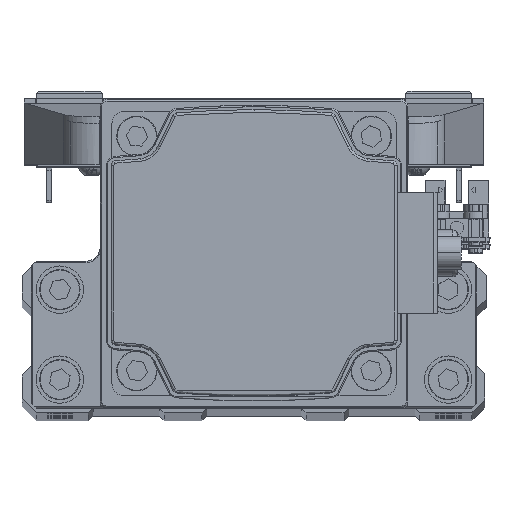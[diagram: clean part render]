
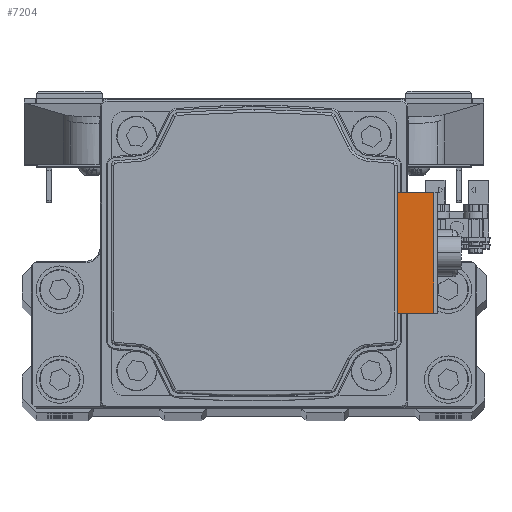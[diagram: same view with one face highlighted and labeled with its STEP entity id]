
A CAD part, top view. The second image highlights one B-rep face of the part: STEP entity #7204.
In plain terms, the highlighted planar face has unit normal (0, 0, 1) as drawn and (0, 0, -1) by its records, which use the part's own axes.
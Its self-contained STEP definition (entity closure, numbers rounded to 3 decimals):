
#261 = CARTESIAN_POINT ( 'NONE',  ( 18.438, 30.2, -88.696 ) ) ;
#2925 = CARTESIAN_POINT ( 'NONE',  ( 12.75, 33.991, -88.696 ) ) ;
#4700 = VERTEX_POINT ( 'NONE', #32684 ) ;
#5823 = EDGE_CURVE ( 'NONE', #13220, #4700, #45860, .T. ) ;
#5963 = DIRECTION ( 'NONE',  ( 0., 1., 0. ) ) ;
#6805 = DIRECTION ( 'NONE',  ( -1., 0., 0. ) ) ;
#7204 = ADVANCED_FACE ( 'NONE', ( #43048 ), #10393, .T. ) ;
#10393 = PLANE ( 'NONE',  #34673 ) ;
#10651 = VECTOR ( 'NONE', #17456, 1000. ) ;
#10963 = ORIENTED_EDGE ( 'NONE', *, *, #5823, .T. ) ;
#11556 = ORIENTED_EDGE ( 'NONE', *, *, #27826, .T. ) ;
#13156 = VERTEX_POINT ( 'NONE', #35215 ) ;
#13198 = CARTESIAN_POINT ( 'NONE',  ( 0., 37.9, -88.696 ) ) ;
#13220 = VERTEX_POINT ( 'NONE', #24727 ) ;
#14543 = VECTOR ( 'NONE', #5963, 1000. ) ;
#14805 = DIRECTION ( 'NONE',  ( 1., 0., 0. ) ) ;
#17456 = DIRECTION ( 'NONE',  ( 0., 1., 0. ) ) ;
#21330 = VECTOR ( 'NONE', #14805, 1000. ) ;
#24094 = LINE ( 'NONE', #38630, #14543 ) ;
#24727 = CARTESIAN_POINT ( 'NONE',  ( -12.75, 37.9, -88.696 ) ) ;
#24921 = CARTESIAN_POINT ( 'NONE',  ( 0., 37.9, -88.696 ) ) ;
#27746 = DIRECTION ( 'NONE',  ( 1., 0., 0. ) ) ;
#27826 = EDGE_CURVE ( 'NONE', #13156, #13220, #24094, .T. ) ;
#28210 = CARTESIAN_POINT ( 'NONE',  ( 12.75, 30.2, -88.696 ) ) ;
#32684 = CARTESIAN_POINT ( 'NONE',  ( 12.75, 37.9, -88.696 ) ) ;
#32906 = LINE ( 'NONE', #261, #21330 ) ;
#34673 = AXIS2_PLACEMENT_3D ( 'NONE', #24921, #39464, #6805 ) ;
#35215 = CARTESIAN_POINT ( 'NONE',  ( -12.75, 30.2, -88.696 ) ) ;
#35581 = LINE ( 'NONE', #2925, #10651 ) ;
#35635 = ORIENTED_EDGE ( 'NONE', *, *, #46665, .F. ) ;
#35840 = ORIENTED_EDGE ( 'NONE', *, *, #42107, .F. ) ;
#38630 = CARTESIAN_POINT ( 'NONE',  ( -12.75, 37.9, -88.696 ) ) ;
#38956 = EDGE_LOOP ( 'NONE', ( #11556, #10963, #35840, #35635 ) ) ;
#39464 = DIRECTION ( 'NONE',  ( 0., 0., -1. ) ) ;
#42107 = EDGE_CURVE ( 'NONE', #44808, #4700, #35581, .T. ) ;
#43048 = FACE_OUTER_BOUND ( 'NONE', #38956, .T. ) ;
#44808 = VERTEX_POINT ( 'NONE', #28210 ) ;
#45860 = LINE ( 'NONE', #13198, #46746 ) ;
#46665 = EDGE_CURVE ( 'NONE', #13156, #44808, #32906, .T. ) ;
#46746 = VECTOR ( 'NONE', #27746, 1000. ) ;
